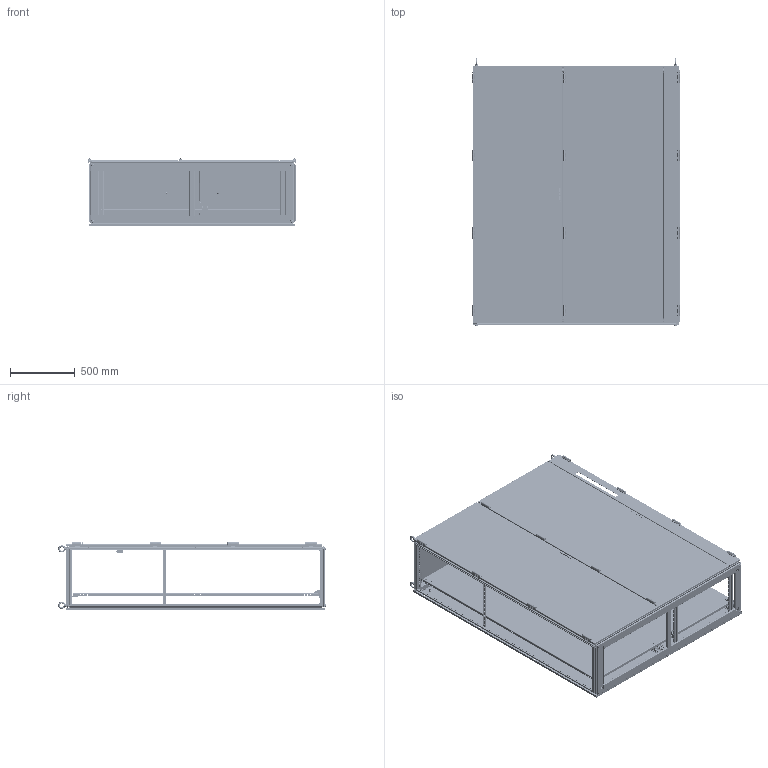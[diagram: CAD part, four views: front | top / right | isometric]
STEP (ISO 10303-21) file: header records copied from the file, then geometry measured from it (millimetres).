
FILE_DESCRIPTION((''),'2;1');
FILE_NAME('9951147_ASM','2015-03-11T',('us01724'),(''),'PRO/ENGINEER BY PARAMETRIC TECHNOLOGY CORPORATION, 2014310','PRO/ENGINEER BY PARAMETRIC TECHNOLOGY CORPORATION, 2014310','');
FILE_SCHEMA(('CONFIG_CONTROL_DESIGN'));
Products named in the file (69): D0038404_AF2; D0038404_AF3; D0242690_AF16; D0242690_AF17; D0038404; D0242690; D0242687; D0241135; D0054898_ASM; D0242687_AF0; D0051551; D0051552; D0051553_ASM; D0241538; D0241473; D0241151; D0208516; D0241463_TS_MPL_SLIDE_BLOCK_L; D0241464_TS_MPL_SLIDE_BLOCK_R; D0241469_TS_MPL_RETAINER_RIGHT; D0241468_TS_MPL_RETAINER_LEFT; D0027207; 211119; D0200620; D8800030_ROTATING_BODY; D8800030_STATIONARY_BODY; D8800030_ASM; D0043314; TS_GASKET_DR_FMDC_LEFT_0820; D0242763_TS8_GROUND_STUD_M8; D0242763_TS8_CAP_M8; D0242763_ASM; D0242679; D0223916; D0025196; D0233331; D0214486; D0025199_ASM; D0241492; D0241496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
Assembly tree (169 placements, depth 4):
  9951147_ASM
    D0054898_ASM
      D0038404_AF2
      D0038404_AF3
      D0242690_AF16
      D0242690_AF17
      D0038404  x2
      D0242690  x2
      D0242687  x4
      D0241135  x8
    D0051553_ASM  x4
      D0242687_AF0
      D0051551
      D0051552
    D0241538  x2
    D0241473  x2
    D0241151  x4
    D0208516  x2
    D0241463_TS_MPL_SLIDE_BLOCK_L
    D0241464_TS_MPL_SLIDE_BLOCK_R
    D0241469_TS_MPL_RETAINER_RIGHT
    D0241468_TS_MPL_RETAINER_LEFT
    D0027207
    211119
    D0200620
    D8800030_ASM  x12
      D8800030_ROTATING_BODY
      D8800030_STATIONARY_BODY
    D0043314_ASM
      D0043314
      TS_GASKET_DR_FMDC_LEFT_0820
      D0242763_ASM  x2
        D0242763_TS8_GROUND_STUD_M8
        D0242763_TS8_CAP_M8
      D0242679  x6
      D0223916  x8
      D0025199_ASM
        D0025196  x2
        D0233331  x2
        D0214486  x4
      TS_LOCKBAR_ASSY_2000_DBL_ASM
        D0241492
        D0241496  x2
        D0042690  x2
        D0030693  x4
    D0054745_ASM
      D0054745
      TS_GASKET_DOOR_FMDC_LEFT_0720
      D0242763_ASM  x2
        D0242763_TS8_GROUND_STUD_M8
        D0242763_TS8_CAP_M8
      D0242679  x6
      D0223916  x6
    D0043244_ASM
      D0043244
      TS_GASKET_DOOR_FMDC_2000
      D0242763_ASM  x2
        D0242763_TS8_GROUND_STUD_M8
        D0242763_TS8_CAP_M8
      D0242679  x3
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Bounding box: 1598.28 x 2064.45 x 522.82 mm (x, y, z)
Volume: 31548855.6 mm3; surface area: 32032442 mm2
Topology: 196 solids, 228 shells, 34588 faces, 98355 edges, 63930 vertices
Faces by surface type: plane 20342, cylinder 12528, cone 664, torus 564, bspline 252, sphere 142, extrusion 96
Entity records: 437061 total; most frequent: CARTESIAN_POINT 80997, ORIENTED_EDGE 72996, DIRECTION 72033, EDGE_CURVE 36502, VECTOR 25981, LINE 25957, VERTEX_POINT 23809, AXIS2_PLACEMENT_3D 23026
